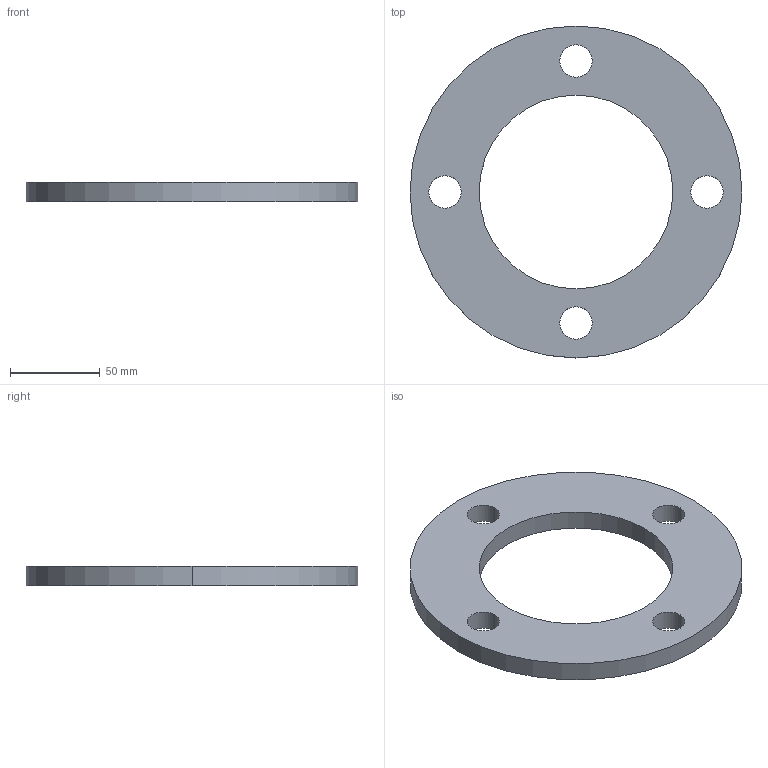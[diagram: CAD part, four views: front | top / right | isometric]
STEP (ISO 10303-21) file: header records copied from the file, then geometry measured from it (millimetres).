
FILE_DESCRIPTION (( 'STEP AP214' ), '1' );
FILE_NAME ('BRDE90G.STEP', '2021-05-14T11:04:12', ( 'D002203' ), ( 'Fusion Group Ltd.' ), 'SwSTEP 2.0', 'SolidWorks 2019', '' );
FILE_SCHEMA (( 'AUTOMOTIVE_DESIGN' ));
Length unit declared in the file: millimetre
Products named in the file (1): BRDE90G
Bounding box: 185 x 185 x 11 mm (x, y, z)
Volume: 183716.4 mm3; surface area: 46016.5 mm2
Topology: 1 solids, 1 shells, 14 faces, 36 edges, 24 vertices
Faces by surface type: cylinder 12, plane 2
Entity records: 498 total; most frequent: DIRECTION 90, CARTESIAN_POINT 75, ORIENTED_EDGE 72, AXIS2_PLACEMENT_3D 39, EDGE_CURVE 36, VERTEX_POINT 24, EDGE_LOOP 24, CIRCLE 24
